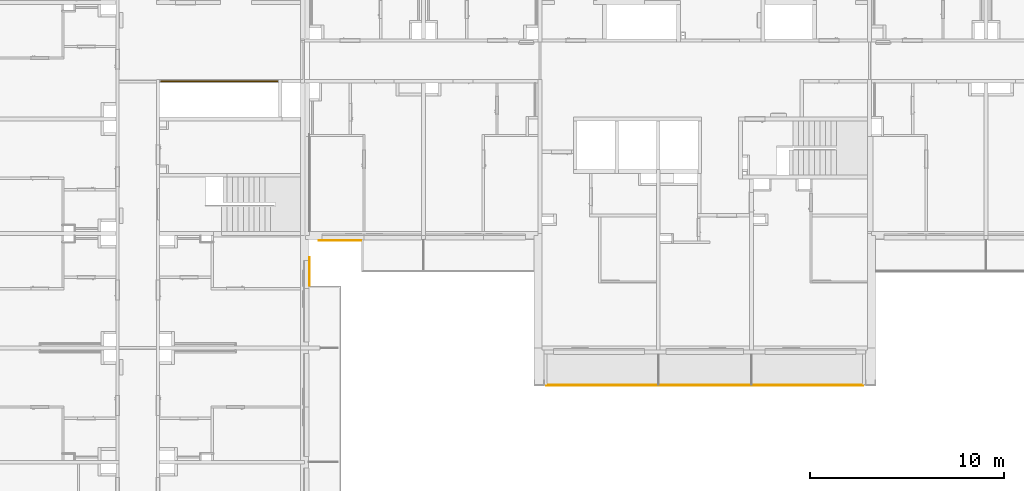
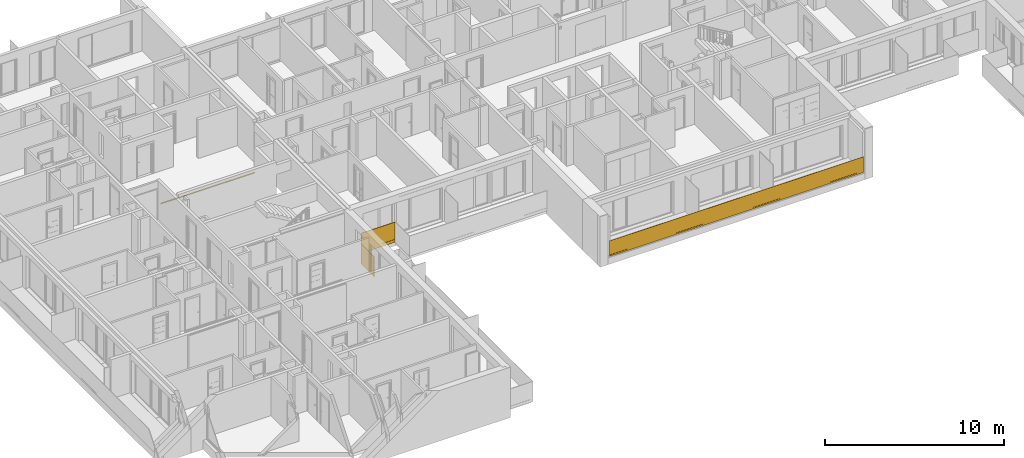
# One storey, part 5 of 67: 4 railings.
"""IFC2X3 building model written with IfcOpenShell, lengths in millimetres."""

import ifcopenshell
import ifcopenshell.guid

model = None  # the IFC model being written
_history = None  # IfcOwnerHistory: only IFC2X3 demands one
_inside = {}  # id of a spatial element -> (the spatial element, [elements in it])
_under = {}  # id of a project, library or spatial element -> (it, [spatial elements below it])
_declared = {}  # id of a project -> (the project, [libraries it declares])
_typed = {}  # id of a type object -> (the type object, [elements of that type])
_made_of = {}  # id of a material, layer set ... -> (it, [elements and type objects made of it])


def new_model(schema):
    """Start an empty IFC model of exactly this schema.

    Asked for "IFC4X3", IfcOpenShell would pick the latest addendum, in which some entities
    have other attributes; the version numbers below select the first issue.
    IFC2X3 requires an IfcOwnerHistory on every rooted entity: one is made here for all.
    """
    global model, _history
    if schema == "IFC4X3":
        model = ifcopenshell.file(schema_version=(4, 3, 0, 0))
    else:
        model = ifcopenshell.file(schema=schema)
    _inside.clear()
    _under.clear()
    _declared.clear()
    _typed.clear()
    _made_of.clear()
    _history = None
    if model.schema == "IFC2X3":
        org = make("IfcOrganization", Name="unknown")
        user = make(
            "IfcPersonAndOrganization",
            ThePerson=make("IfcPerson", FamilyName="unknown"),
            TheOrganization=org,
        )
        app = make(
            "IfcApplication",
            ApplicationDeveloper=org,
            Version="unknown",
            ApplicationFullName="unknown",
            ApplicationIdentifier="unknown",
        )
        _history = make(
            "IfcOwnerHistory",
            OwningUser=user,
            OwningApplication=app,
            ChangeAction="ADDED",
            CreationDate=0,
        )
    return model


def make(cls, **values):
    """One entity of the class cls with the attributes given. An attribute that is None is left unset."""
    return model.create_entity(
        cls, **{name: value for name, value in values.items() if value is not None}
    )


def entity(cls, *values):
    """Any entity or typed value of the class cls, its attributes in the order of the schema. None: left unset."""
    e = model.create_entity(cls)
    for i, value in enumerate(values):
        if value is not None:
            e[i] = value
    return e


def rooted(cls, **values):
    """An entity with a GlobalId (a new one), such as an element, a storey or a relation."""
    return make(cls, GlobalId=ifcopenshell.guid.new(), OwnerHistory=_history, **values)


def si_unit(unit_type, name, prefix=None):
    """IfcSIUnit, for example si_unit("LENGTHUNIT", "METRE", prefix="MILLI")."""
    return make("IfcSIUnit", UnitType=unit_type, Prefix=prefix, Name=name)


def converted_unit(unit_type, name, factor, base, dimensions=None, offset=None):
    """IfcConversionBasedUnit, such as the inch: factor (a typed value) times the base unit."""
    return make(
        "IfcConversionBasedUnit"
        if offset is None
        else "IfcConversionBasedUnitWithOffset",
        ConversionOffset=offset,
        Dimensions=None
        if dimensions is None
        else entity("IfcDimensionalExponents", *dimensions),
        UnitType=unit_type,
        Name=name,
        ConversionFactor=make(
            "IfcMeasureWithUnit", ValueComponent=factor, UnitComponent=base
        ),
    )


def derived_unit(unit_type, elements):
    """IfcDerivedUnit: a product of units, each with its exponent."""
    return make(
        "IfcDerivedUnit",
        Elements=[
            make("IfcDerivedUnitElement", Unit=unit, Exponent=power)
            for unit, power in elements
        ],
        UnitType=unit_type,
    )


def money_unit(currency):
    """IfcMonetaryUnit."""
    return make("IfcMonetaryUnit", Currency=currency)


def assignment(units):
    """IfcUnitAssignment: the units of a project."""
    return None if units is None else make("IfcUnitAssignment", Units=units)


def point(xyz):
    """IfcCartesianPoint."""
    return None if xyz is None else make("IfcCartesianPoint", Coordinates=xyz)


def direction(xyz):
    """IfcDirection."""
    return None if xyz is None else make("IfcDirection", DirectionRatios=xyz)


def frame(location, z_axis=None, x_axis=None):
    """IfcAxis2Placement3D, a coordinate frame: its origin and axes. An axis left out is left unset."""
    return make(
        "IfcAxis2Placement3D",
        Location=point(location),
        Axis=direction(z_axis),
        RefDirection=direction(x_axis),
    )


def origin_with_axes():
    """The frame at (0, 0, 0) with the z axis (0, 0, 1) and the x axis (1, 0, 0) written out."""
    return frame((0.0, 0.0, 0.0), z_axis=(0.0, 0.0, 1.0), x_axis=(1.0, 0.0, 0.0))


def place(relative_to, where):
    """IfcLocalPlacement: puts the frame where relative to a parent placement (None: the world)."""
    return make(
        "IfcLocalPlacement", PlacementRelTo=relative_to, RelativePlacement=where
    )


def context(
    kind, dimensions, precision=None, world=None, true_north=None, identifier=None
):
    """IfcGeometricRepresentationContext, for example the 3D "Model" context."""
    return make(
        "IfcGeometricRepresentationContext",
        ContextIdentifier=identifier,
        ContextType=kind,
        CoordinateSpaceDimension=dimensions,
        Precision=precision,
        WorldCoordinateSystem=world,
        TrueNorth=true_north,
    )


def subcontext(parent, identifier, kind, view, scale=None):
    """IfcGeometricRepresentationSubContext, for example "Body" below "Model"."""
    return make(
        "IfcGeometricRepresentationSubContext",
        ContextIdentifier=identifier,
        ContextType=kind,
        ParentContext=parent,
        TargetScale=scale,
        TargetView=view,
    )


def project(units=None, contexts=None):
    """IfcProject with its units and contexts."""
    return rooted(
        "IfcProject",
        Name="project",
        RepresentationContexts=contexts,
        UnitsInContext=assignment(units),
    )


def spatial(cls, under=None, at=None, **own):
    """A site, building, storey or space (cls), placed at a placement, below another one or the project."""
    s = rooted(cls, ObjectPlacement=at, **own)
    if under is not None:
        _under.setdefault(under.id(), (under, []))[1].append(s)
    return s


def faces_of(points, faces, orient=None, outer=None):
    """IfcFace entities. A face is a list of loops; a loop is a list of indices into points, from 0.

    orient and outer hold one flag for each loop. By default every Orientation is true, the
    first loop of a face is its IfcFaceOuterBound and the others are IfcFaceBound.
    """
    made = []
    for i, loops in enumerate(faces):
        bounds = []
        for j, loop in enumerate(loops):
            is_outer = j == 0 if outer is None else outer[i][j]
            bounds.append(
                make(
                    "IfcFaceOuterBound" if is_outer else "IfcFaceBound",
                    Bound=make("IfcPolyLoop", Polygon=[points[k] for k in loop]),
                    Orientation=True if orient is None else orient[i][j],
                )
            )
        made.append(make("IfcFace", Bounds=bounds))
    return made


def faceted_brep(points, faces, orient=None, outer=None, voids=None):
    """IfcFacetedBrep: a solid bounded by flat faces; with voids (closed shells), ...WithVoids."""
    shared = [point(p) for p in points]
    hull = make("IfcClosedShell", CfsFaces=faces_of(shared, faces, orient, outer))
    if voids is None:
        return make("IfcFacetedBrep", Outer=hull)
    return make(
        "IfcFacetedBrepWithVoids",
        Outer=hull,
        Voids=[
            make(cls, CfsFaces=faces_of(shared, fs, o, b)) for cls, fs, o, b in voids
        ],
    )


def shape(context_of_items, identifier, shape_type, items):
    """IfcShapeRepresentation: the items that make up one representation, for example the "Body"."""
    return make(
        "IfcShapeRepresentation",
        ContextOfItems=context_of_items,
        RepresentationIdentifier=identifier,
        RepresentationType=shape_type,
        Items=items,
    )


def material(Name=None, Category=None):
    """IfcMaterial."""
    return make("IfcMaterial", Name=Name, Category=Category)


def material_list(materials):
    """IfcMaterialList."""
    return make("IfcMaterialList", Materials=materials)


def made_of(thing, what):
    """Note that an element or type object is made of a material, layer set ...; save() writes the relation."""
    if what is not None:
        _made_of.setdefault(what.id(), (what, []))[1].append(thing)
    return thing


def type_object(cls, material=None, **own):
    """A type object (cls), such as IfcWallType, which elements share."""
    return made_of(rooted(cls, **own), material)


def element(
    cls,
    number,
    at=None,
    inside=None,
    cuts=None,
    type_object=None,
    material=None,
    context=None,
    identifier="Body",
    shape_type=None,
    held_by="IfcProductDefinitionShape",
    body=None,
    shapes=None,
    **own,
):
    """One element of the class cls, such as IfcWall. Its Tag is "e" and its number.

    at: its placement. inside: the storey or other place that contains it. cuts: it is an
    opening in that element (IfcRelVoidsElement). A single representation is given by context,
    identifier, shape_type and body (its items); several are given by shapes. held_by: the class
    of the entity that holds the representations. save() writes the other relations.
    """
    e = rooted(cls, Tag="e%d" % number, ObjectPlacement=at, **own)
    if body is not None:
        shapes = [shape(context, identifier, shape_type, body)]
    if shapes is not None:
        e.Representation = make(held_by, Representations=shapes)
    if inside is not None:
        _inside.setdefault(inside.id(), (inside, []))[1].append(e)
    if cuts is not None:
        rooted(
            "IfcRelVoidsElement", RelatingBuildingElement=cuts, RelatedOpeningElement=e
        )
    if type_object is not None:
        _typed.setdefault(type_object.id(), (type_object, []))[1].append(e)
    return made_of(e, material)


def aggregate(whole, parts):
    """IfcRelAggregates: a whole, such as a stair, and the parts it consists of."""
    return rooted("IfcRelAggregates", RelatingObject=whole, RelatedObjects=parts)


def save(model, path):
    """Write the relations noted so far, then the file.

    IfcRelAggregates (storeys below a building ...), IfcRelContainedInSpatialStructure (elements
    in a storey), IfcRelDefinesByType, IfcRelAssociatesMaterial and IfcRelDeclares: one each for
    every whole, place, type object, material and project.
    """
    for whole, parts in _under.values():
        aggregate(whole, parts)
    for where, things in _inside.values():
        rooted(
            "IfcRelContainedInSpatialStructure",
            RelatedElements=things,
            RelatingStructure=where,
        )
    for kind, things in _typed.values():
        rooted("IfcRelDefinesByType", RelatedObjects=things, RelatingType=kind)
    for what, things in _made_of.values():
        rooted("IfcRelAssociatesMaterial", RelatedObjects=things, RelatingMaterial=what)
    for by, libraries in _declared.values():
        rooted("IfcRelDeclares", RelatingContext=by, RelatedDefinitions=libraries)
    model.write(path)


model = new_model("IFC2X3")

# Units and contexts
model_context = context("Model", 3, precision=0.01, world=origin_with_axes(), true_north=direction((0.34421633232, 0.938890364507)))
body_context = subcontext(model_context, "Body", "Model", "MODEL_VIEW")
ifc_project = project(units=[si_unit("LENGTHUNIT", "METRE", prefix="MILLI"), si_unit("AREAUNIT", "SQUARE_METRE"), si_unit("VOLUMEUNIT", "CUBIC_METRE"), converted_unit("PLANEANGLEUNIT", "DEGREE", entity("IfcPlaneAngleMeasure", 0.0174532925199), si_unit("PLANEANGLEUNIT", "RADIAN"), dimensions=[0, 0, 0, 0, 0, 0, 0]), si_unit("SOLIDANGLEUNIT", "STERADIAN"), money_unit("USD"), converted_unit("TIMEUNIT", "Year", entity("IfcTimeMeasure", 31556926.0), si_unit("TIMEUNIT", "SECOND"), dimensions=[0, 0, 1, 0, 0, 0, 0]), si_unit("MASSUNIT", "GRAM", prefix="KILO"), si_unit("THERMODYNAMICTEMPERATUREUNIT", "DEGREE_CELSIUS"), si_unit("LUMINOUSINTENSITYUNIT", "LUMEN"), si_unit("ENERGYUNIT", "JOULE", prefix="MEGA"), derived_unit("THERMALCONDUCTANCEUNIT", [(si_unit("POWERUNIT", "WATT"), 1), (si_unit("LENGTHUNIT", "METRE"), -1), (si_unit("THERMODYNAMICTEMPERATUREUNIT", "KELVIN"), -1)]), derived_unit("SPECIFICHEATCAPACITYUNIT", [(si_unit("ENERGYUNIT", "JOULE"), 1), (si_unit("MASSUNIT", "GRAM", prefix="KILO"), -1), (si_unit("THERMODYNAMICTEMPERATUREUNIT", "KELVIN"), -1)]), derived_unit("MASSDENSITYUNIT", [(si_unit("MASSUNIT", "GRAM", prefix="KILO"), 1), (si_unit("VOLUMEUNIT", "CUBIC_METRE"), -1)])], contexts=[model_context])

# Site, building, storey
site_placement = place(None, origin_with_axes())
site = spatial("IfcSite", under=ifc_project, at=site_placement, Name="USTRONIE MORSKIE", CompositionType="ELEMENT")
building_placement = place(site_placement, origin_with_axes())
building = spatial("IfcBuilding", under=site, at=building_placement, Name="Budynek", CompositionType="ELEMENT")
storey_placement = place(building_placement, frame((0.0, 0.0, 4000.0), z_axis=(0.0, 0.0, 1.0), x_axis=(1.0, 0.0, 0.0)))
storey = spatial("IfcBuildingStorey", under=building, at=storey_placement, Name="PIĘTRO 1", CompositionType="ELEMENT", Elevation=4000.0)

# Railings
ifc_material_1 = material(Name="Szkło struktualne")
ifc_material_2 = material(Name="Profile aluminiowe")
ifc_material_list_1 = material_list([ifc_material_1, ifc_material_2])
railing_type = type_object("IfcRailingType", Name="Typ balustrady", PredefinedType="NOTDEFINED")
railing_1_placement = place(storey_placement, frame((396597.920919, 720851.199036, 30.0), z_axis=(0.0, 0.0, 1.0), x_axis=(1.0, 0.0, 0.0)))
element("IfcRailing", 1, at=railing_1_placement, inside=storey, type_object=railing_type, material=ifc_material_list_1, Name="BL1", PredefinedType="NOTDEFINED", context=body_context, shape_type="Brep", body=[
    faceted_brep([(-16960.0, -1790.0, -100.0), (-600.0, -1790.0, -100.0), (-600.0, -1790.0, 950.0), (-16960.0, -1790.0, 950.0), (-600.0, -1770.0, -100.0), (-16960.0, -1770.0, -100.0), (-600.0, -1770.0, 950.0), (-16960.0, -1770.0, 950.0)], [[[0, 1, 2, 3]], [[4, 1, 0, 5]], [[6, 2, 1, 4]], [[3, 2, 6, 7]], [[0, 3, 7, 5]], [[6, 4, 5, 7]]]),
    faceted_brep([(-600.0, -1765.0, -105.0), (-16960.0, -1765.0, -105.0), (-16960.0, -1765.0, -5.0), (-600.0, -1765.0, -5.0), (-600.0, -1795.0, -105.0), (-16960.0, -1795.0, -105.0), (-16960.0, -1795.0, -5.0), (-16960.0, -1790.0, -5.0), (-16960.0, -1790.0, -100.0), (-16960.0, -1770.0, -100.0), (-16960.0, -1770.0, -5.0), (-600.0, -1770.0, -5.0), (-600.0, -1790.0, -100.0), (-600.0, -1790.0, -5.0), (-600.0, -1795.0, -5.0), (-600.0, -1770.0, -100.0)], [[[0, 1, 2, 3]], [[4, 5, 1, 0]], [[5, 6, 7, 8, 9, 10, 2, 1]], [[3, 2, 10, 11]], [[12, 13, 14, 4, 0, 3, 11, 15]], [[5, 4, 14, 6]], [[14, 13, 7, 6]], [[13, 12, 8, 7]], [[12, 15, 9, 8]], [[9, 15, 11, 10]]]),
])
railing_2_placement = place(storey_placement, frame((367377.958165, 724111.198359, 0.0), z_axis=(0.0, 0.0, 1.0), x_axis=(-1.0, 0.0, 0.0)))
element("IfcRailing", 2, at=railing_2_placement, inside=storey, type_object=railing_type, material=ifc_material_list_1, Name="BL1", PredefinedType="NOTDEFINED", context=body_context, shape_type="Brep", body=[
    faceted_brep([(-40.0, -1550.0, -300.0), (-40.0, -80.0, -300.0), (-40.0, -80.0, 1070.0), (-40.0, -1550.0, 1070.0), (-60.0, -80.0, -300.0), (-60.0, -1550.0, -300.0), (-60.0, -80.0, 1070.0), (-60.0, -1550.0, 1070.0)], [[[0, 1, 2, 3]], [[4, 1, 0, 5]], [[6, 2, 1, 4]], [[3, 2, 6, 7]], [[0, 3, 7, 5]], [[6, 4, 5, 7]]]),
    faceted_brep([(-65.0, -1550.0, -105.0), (-65.0, -80.0, -105.0), (-65.0, -80.0, -305.0), (-65.0, -1550.0, -305.0), (-60.0, -1550.0, -105.0), (-60.0, -80.0, -105.0), (-60.0, -80.0, -300.0), (-40.0, -80.0, -300.0), (-40.0, -80.0, -105.0), (-35.0, -80.0, -105.0), (-35.0, -80.0, -305.0), (-35.0, -1550.0, -305.0), (-35.0, -1550.0, -105.0), (-40.0, -1550.0, -105.0), (-40.0, -1550.0, -300.0), (-60.0, -1550.0, -300.0)], [[[0, 1, 2, 3]], [[1, 0, 4, 5]], [[6, 7, 8, 9, 10, 2, 1, 5]], [[10, 11, 3, 2]], [[11, 12, 13, 14, 15, 4, 0, 3]], [[15, 6, 5, 4]], [[7, 6, 15, 14]], [[8, 7, 14, 13]], [[9, 8, 13, 12]], [[11, 10, 9, 12]]]),
])
ifc_material_3 = material(Name="Stal nierdzewna")
ifc_material_list_2 = material_list([ifc_material_3, ifc_material_3, ifc_material_3])
railing_3_placement = place(storey_placement, frame((365767.926125, 734741.198985, 0.0), z_axis=(0.0, 0.0, 1.0), x_axis=(-1.0, 0.0, 0.0)))
element("IfcRailing", 3, at=railing_3_placement, inside=storey, type_object=railing_type, material=ifc_material_list_2, Name="BL1", PredefinedType="NOTDEFINED", context=body_context, shape_type="Brep", body=[
    faceted_brep([(20.0, -25.0, 975.0), (20.0, -24.6201938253, 979.341204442), (-30.0, -24.6201938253, 979.341204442), (-30.0, -25.0, 975.0), (20.0, -24.6201938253, 970.658795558), (20.0, -23.4923155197, 966.449496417), (20.0, -21.6506350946, 962.5), (20.0, -19.151111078, 958.930309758), (20.0, -16.0696902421, 955.848888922), (20.0, -12.5, 953.349364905), (20.0, -8.55050358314, 951.50768448), (20.0, -4.34120444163, 950.379806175), (20.0, 0.0, 950.0), (20.0, 4.34120444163, 950.379806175), (20.0, 8.55050358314, 951.50768448), (20.0, 12.5, 953.349364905), (20.0, 16.0696902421, 955.848888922), (20.0, 19.151111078, 958.930309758), (20.0, 21.6506350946, 962.5), (20.0, 23.4923155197, 966.449496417), (20.0, 24.6201938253, 970.658795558), (20.0, 25.0, 975.0), (20.0, 24.6201938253, 979.341204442), (20.0, 23.4923155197, 983.550503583), (20.0, 21.6506350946, 987.5), (20.0, 19.151111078, 991.069690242), (20.0, 16.0696902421, 994.151111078), (20.0, 12.5, 996.650635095), (20.0, 8.55050358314, 998.49231552), (20.0, 4.34120444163, 999.620193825), (20.0, 0.0, 1000.0), (20.0, -4.34120444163, 999.620193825), (20.0, -8.55050358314, 998.49231552), (20.0, -12.5, 996.650635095), (20.0, -16.0696902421, 994.151111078), (20.0, -19.151111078, 991.069690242), (20.0, -21.6506350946, 987.5), (20.0, -23.4923155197, 983.550503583), (20.0, -15.0, 975.0), (20.0, -14.7721162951, 977.604722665), (20.0, -14.0953893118, 980.13030215), (20.0, -12.9903810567, 982.5), (20.0, -11.4906666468, 984.641814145), (20.0, -9.64181414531, 986.490666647), (20.0, -7.50000000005, 987.990381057), (20.0, -5.13030214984, 989.095389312), (20.0, -2.60472266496, 989.772116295), (20.0, 0.0, 990.0), (20.0, 2.60472266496, 989.772116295), (20.0, 5.13030214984, 989.095389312), (20.0, 7.50000000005, 987.990381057), (20.0, 9.64181414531, 986.490666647), (20.0, 11.4906666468, 984.641814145), (20.0, 12.9903810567, 982.5), (20.0, 14.0953893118, 980.13030215), (20.0, 14.7721162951, 977.604722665), (20.0, 15.0, 975.0), (20.0, 14.7721162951, 972.395277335), (20.0, 14.0953893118, 969.86969785), (20.0, 12.9903810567, 967.5), (20.0, 11.4906666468, 965.358185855), (20.0, 9.64181414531, 963.509333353), (20.0, 7.50000000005, 962.009618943), (20.0, 5.13030214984, 960.904610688), (20.0, 2.60472266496, 960.227883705), (20.0, 0.0, 960.0), (20.0, -2.60472266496, 960.227883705), (20.0, -5.13030214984, 960.904610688), (20.0, -7.50000000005, 962.009618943), (20.0, -9.64181414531, 963.509333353), (20.0, -11.4906666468, 965.358185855), (20.0, -12.9903810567, 967.5), (20.0, -14.0953893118, 969.86969785), (20.0, -14.7721162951, 972.395277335), (-30.0, -23.4923155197, 983.550503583), (-30.0, -21.6506350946, 987.5), (-30.0, -19.151111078, 991.069690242), (-30.0, -16.0696902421, 994.151111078), (-30.0, -12.5, 996.650635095), (-30.0, -8.55050358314, 998.49231552), (-30.0, -4.34120444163, 999.620193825), (-30.0, 0.0, 1000.0), (-30.0, 4.34120444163, 999.620193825), (-30.0, 8.55050358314, 998.49231552), (-30.0, 12.5, 996.650635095), (-30.0, 16.0696902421, 994.151111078), (-30.0, 19.151111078, 991.069690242), (-30.0, 21.6506350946, 987.5), (-30.0, 23.4923155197, 983.550503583), (-30.0, 24.6201938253, 979.341204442), (-30.0, 25.0, 975.0), (-30.0, 24.6201938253, 970.658795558), (-30.0, 23.4923155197, 966.449496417), (-30.0, 21.6506350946, 962.5), (-30.0, 19.151111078, 958.930309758), (-30.0, 16.0696902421, 955.848888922), (-30.0, 12.5, 953.349364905), (-30.0, 8.55050358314, 951.50768448), (-30.0, 4.34120444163, 950.379806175), (-30.0, 0.0, 950.0), (-30.0, -4.34120444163, 950.379806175), (-30.0, -8.55050358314, 951.50768448), (-30.0, -12.5, 953.349364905), (-30.0, -16.0696902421, 955.848888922), (-30.0, -19.151111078, 958.930309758), (-30.0, -21.6506350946, 962.5), (-30.0, -23.4923155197, 966.449496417), (-30.0, -24.6201938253, 970.658795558), (-30.0, -15.0, 975.0), (-30.0, -14.7721162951, 972.395277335), (-30.0, -14.0953893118, 969.86969785), (-30.0, -12.9903810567, 967.5), (-30.0, -11.4906666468, 965.358185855), (-30.0, -9.64181414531, 963.509333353), (-30.0, -7.50000000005, 962.009618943), (-30.0, -5.13030214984, 960.904610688), (-30.0, -2.60472266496, 960.227883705), (-30.0, 0.0, 960.0), (-30.0, 2.60472266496, 960.227883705), (-30.0, 5.13030214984, 960.904610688), (-30.0, 7.50000000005, 962.009618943), (-30.0, 9.64181414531, 963.509333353), (-30.0, 11.4906666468, 965.358185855), (-30.0, 12.9903810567, 967.5), (-30.0, 14.0953893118, 969.86969785), (-30.0, 14.7721162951, 972.395277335), (-30.0, 15.0, 975.0), (-30.0, 14.7721162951, 977.604722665), (-30.0, 14.0953893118, 980.13030215), (-30.0, 12.9903810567, 982.5), (-30.0, 11.4906666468, 984.641814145), (-30.0, 9.64181414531, 986.490666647), (-30.0, 7.50000000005, 987.990381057), (-30.0, 5.13030214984, 989.095389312), (-30.0, 2.60472266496, 989.772116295), (-30.0, 0.0, 990.0), (-30.0, -2.60472266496, 989.772116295), (-30.0, -5.13030214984, 989.095389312), (-30.0, -7.50000000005, 987.990381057), (-30.0, -9.64181414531, 986.490666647), (-30.0, -11.4906666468, 984.641814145), (-30.0, -12.9903810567, 982.5), (-30.0, -14.0953893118, 980.13030215), (-30.0, -14.7721162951, 977.604722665)], [[[0, 1, 2, 3]], [[0, 4, 5, 6, 7, 8, 9, 10, 11, 12, 13, 14, 15, 16, 17, 18, 19, 20, 21, 22, 23, 24, 25, 26, 27, 28, 29, 30, 31, 32, 33, 34, 35, 36, 37, 1], [38, 39, 40, 41, 42, 43, 44, 45, 46, 47, 48, 49, 50, 51, 52, 53, 54, 55, 56, 57, 58, 59, 60, 61, 62, 63, 64, 65, 66, 67, 68, 69, 70, 71, 72, 73]], [[1, 37, 74, 2]], [[3, 2, 74, 75, 76, 77, 78, 79, 80, 81, 82, 83, 84, 85, 86, 87, 88, 89, 90, 91, 92, 93, 94, 95, 96, 97, 98, 99, 100, 101, 102, 103, 104, 105, 106, 107], [108, 109, 110, 111, 112, 113, 114, 115, 116, 117, 118, 119, 120, 121, 122, 123, 124, 125, 126, 127, 128, 129, 130, 131, 132, 133, 134, 135, 136, 137, 138, 139, 140, 141, 142, 143]], [[4, 0, 3, 107]], [[5, 4, 107, 106]], [[6, 5, 106, 105]], [[7, 6, 105, 104]], [[8, 7, 104, 103]], [[9, 8, 103, 102]], [[10, 9, 102, 101]], [[11, 10, 101, 100]], [[12, 11, 100, 99]], [[13, 12, 99, 98]], [[14, 13, 98, 97]], [[15, 14, 97, 96]], [[16, 15, 96, 95]], [[17, 16, 95, 94]], [[18, 17, 94, 93]], [[19, 18, 93, 92]], [[20, 19, 92, 91]], [[21, 20, 91, 90]], [[22, 21, 90, 89]], [[23, 22, 89, 88]], [[24, 23, 88, 87]], [[25, 24, 87, 86]], [[26, 25, 86, 85]], [[27, 26, 85, 84]], [[28, 27, 84, 83]], [[29, 28, 83, 82]], [[30, 29, 82, 81]], [[31, 30, 81, 80]], [[32, 31, 80, 79]], [[33, 32, 79, 78]], [[34, 33, 78, 77]], [[35, 34, 77, 76]], [[36, 35, 76, 75]], [[37, 36, 75, 74]], [[39, 38, 108, 143]], [[40, 39, 143, 142]], [[41, 40, 142, 141]], [[42, 41, 141, 140]], [[43, 42, 140, 139]], [[44, 43, 139, 138]], [[45, 44, 138, 137]], [[46, 45, 137, 136]], [[47, 46, 136, 135]], [[48, 47, 135, 134]], [[49, 48, 134, 133]], [[50, 49, 133, 132]], [[51, 50, 132, 131]], [[52, 51, 131, 130]], [[53, 52, 130, 129]], [[54, 53, 129, 128]], [[55, 54, 128, 127]], [[56, 55, 127, 126]], [[57, 56, 126, 125]], [[58, 57, 125, 124]], [[59, 58, 124, 123]], [[60, 59, 123, 122]], [[61, 60, 122, 121]], [[62, 61, 121, 120]], [[63, 62, 120, 119]], [[64, 63, 119, 118]], [[65, 64, 118, 117]], [[66, 65, 117, 116]], [[67, 66, 116, 115]], [[68, 67, 115, 114]], [[69, 68, 114, 113]], [[70, 69, 113, 112]], [[71, 70, 112, 111]], [[72, 71, 111, 110]], [[73, 72, 110, 109]], [[38, 73, 109, 108]]]),
    faceted_brep([(5970.00520575, 25.0, 975.0), (5970.00520575, 24.6201938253, 979.341204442), (6020.00520575, 24.6201938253, 979.341204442), (6020.00520575, 25.0, 975.0), (5970.00520575, 24.6201938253, 970.658795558), (5970.00520575, 23.4923155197, 966.449496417), (5970.00520575, 21.6506350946, 962.5), (5970.00520575, 19.151111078, 958.930309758), (5970.00520575, 16.0696902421, 955.848888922), (5970.00520575, 12.5, 953.349364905), (5970.00520575, 8.55050358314, 951.50768448), (5970.00520575, 4.34120444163, 950.379806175), (5970.00520575, 0.0, 950.0), (5970.00520575, -4.34120444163, 950.379806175), (5970.00520575, -8.55050358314, 951.50768448), (5970.00520575, -12.5, 953.349364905), (5970.00520575, -16.0696902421, 955.848888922), (5970.00520575, -19.151111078, 958.930309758), (5970.00520575, -21.6506350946, 962.5), (5970.00520575, -23.4923155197, 966.449496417), (5970.00520575, -24.6201938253, 970.658795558), (5970.00520575, -25.0, 975.0), (5970.00520575, -24.6201938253, 979.341204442), (5970.00520575, -23.4923155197, 983.550503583), (5970.00520575, -21.6506350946, 987.5), (5970.00520575, -19.151111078, 991.069690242), (5970.00520575, -16.0696902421, 994.151111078), (5970.00520575, -12.5, 996.650635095), (5970.00520575, -8.55050358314, 998.49231552), (5970.00520575, -4.34120444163, 999.620193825), (5970.00520575, 0.0, 1000.0), (5970.00520575, 4.34120444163, 999.620193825), (5970.00520575, 8.55050358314, 998.49231552), (5970.00520575, 12.5, 996.650635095), (5970.00520575, 16.0696902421, 994.151111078), (5970.00520575, 19.151111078, 991.069690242), (5970.00520575, 21.6506350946, 987.5), (5970.00520575, 23.4923155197, 983.550503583), (5970.00520575, 15.0, 975.0), (5970.00520575, 14.7721162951, 977.604722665), (5970.00520575, 14.0953893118, 980.13030215), (5970.00520575, 12.9903810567, 982.5), (5970.00520575, 11.4906666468, 984.641814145), (5970.00520575, 9.64181414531, 986.490666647), (5970.00520575, 7.50000000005, 987.990381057), (5970.00520575, 5.13030214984, 989.095389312), (5970.00520575, 2.60472266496, 989.772116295), (5970.00520575, 0.0, 990.0), (5970.00520575, -2.60472266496, 989.772116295), (5970.00520575, -5.13030214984, 989.095389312), (5970.00520575, -7.50000000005, 987.990381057), (5970.00520575, -9.64181414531, 986.490666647), (5970.00520575, -11.4906666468, 984.641814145), (5970.00520575, -12.9903810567, 982.5), (5970.00520575, -14.0953893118, 980.13030215), (5970.00520575, -14.7721162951, 977.604722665), (5970.00520575, -15.0, 975.0), (5970.00520575, -14.7721162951, 972.395277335), (5970.00520575, -14.0953893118, 969.86969785), (5970.00520575, -12.9903810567, 967.5), (5970.00520575, -11.4906666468, 965.358185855), (5970.00520575, -9.64181414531, 963.509333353), (5970.00520575, -7.50000000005, 962.009618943), (5970.00520575, -5.13030214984, 960.904610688), (5970.00520575, -2.60472266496, 960.227883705), (5970.00520575, 0.0, 960.0), (5970.00520575, 2.60472266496, 960.227883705), (5970.00520575, 5.13030214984, 960.904610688), (5970.00520575, 7.50000000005, 962.009618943), (5970.00520575, 9.64181414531, 963.509333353), (5970.00520575, 11.4906666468, 965.358185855), (5970.00520575, 12.9903810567, 967.5), (5970.00520575, 14.0953893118, 969.86969785), (5970.00520575, 14.7721162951, 972.395277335), (6020.00520575, 23.4923155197, 983.550503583), (6020.00520575, 21.6506350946, 987.5), (6020.00520575, 19.151111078, 991.069690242), (6020.00520575, 16.0696902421, 994.151111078), (6020.00520575, 12.5, 996.650635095), (6020.00520575, 8.55050358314, 998.49231552), (6020.00520575, 4.34120444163, 999.620193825), (6020.00520575, 0.0, 1000.0), (6020.00520575, -4.34120444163, 999.620193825), (6020.00520575, -8.55050358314, 998.49231552), (6020.00520575, -12.5, 996.650635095), (6020.00520575, -16.0696902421, 994.151111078), (6020.00520575, -19.151111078, 991.069690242), (6020.00520575, -21.6506350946, 987.5), (6020.00520575, -23.4923155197, 983.550503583), (6020.00520575, -24.6201938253, 979.341204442), (6020.00520575, -25.0, 975.0), (6020.00520575, -24.6201938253, 970.658795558), (6020.00520575, -23.4923155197, 966.449496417), (6020.00520575, -21.6506350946, 962.5), (6020.00520575, -19.151111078, 958.930309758), (6020.00520575, -16.0696902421, 955.848888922), (6020.00520575, -12.5, 953.349364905), (6020.00520575, -8.55050358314, 951.50768448), (6020.00520575, -4.34120444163, 950.379806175), (6020.00520575, 0.0, 950.0), (6020.00520575, 4.34120444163, 950.379806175), (6020.00520575, 8.55050358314, 951.50768448), (6020.00520575, 12.5, 953.349364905), (6020.00520575, 16.0696902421, 955.848888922), (6020.00520575, 19.151111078, 958.930309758), (6020.00520575, 21.6506350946, 962.5), (6020.00520575, 23.4923155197, 966.449496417), (6020.00520575, 24.6201938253, 970.658795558), (6020.00520575, 15.0, 975.0), (6020.00520575, 14.7721162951, 972.395277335), (6020.00520575, 14.0953893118, 969.86969785), (6020.00520575, 12.9903810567, 967.5), (6020.00520575, 11.4906666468, 965.358185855), (6020.00520575, 9.64181414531, 963.509333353), (6020.00520575, 7.50000000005, 962.009618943), (6020.00520575, 5.13030214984, 960.904610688), (6020.00520575, 2.60472266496, 960.227883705), (6020.00520575, 0.0, 960.0), (6020.00520575, -2.60472266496, 960.227883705), (6020.00520575, -5.13030214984, 960.904610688), (6020.00520575, -7.50000000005, 962.009618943), (6020.00520575, -9.64181414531, 963.509333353), (6020.00520575, -11.4906666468, 965.358185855), (6020.00520575, -12.9903810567, 967.5), (6020.00520575, -14.0953893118, 969.86969785), (6020.00520575, -14.7721162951, 972.395277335), (6020.00520575, -15.0, 975.0), (6020.00520575, -14.7721162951, 977.604722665), (6020.00520575, -14.0953893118, 980.13030215), (6020.00520575, -12.9903810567, 982.5), (6020.00520575, -11.4906666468, 984.641814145), (6020.00520575, -9.64181414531, 986.490666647), (6020.00520575, -7.50000000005, 987.990381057), (6020.00520575, -5.13030214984, 989.095389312), (6020.00520575, -2.60472266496, 989.772116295), (6020.00520575, 0.0, 990.0), (6020.00520575, 2.60472266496, 989.772116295), (6020.00520575, 5.13030214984, 989.095389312), (6020.00520575, 7.50000000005, 987.990381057), (6020.00520575, 9.64181414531, 986.490666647), (6020.00520575, 11.4906666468, 984.641814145), (6020.00520575, 12.9903810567, 982.5), (6020.00520575, 14.0953893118, 980.13030215), (6020.00520575, 14.7721162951, 977.604722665)], [[[0, 1, 2, 3]], [[0, 4, 5, 6, 7, 8, 9, 10, 11, 12, 13, 14, 15, 16, 17, 18, 19, 20, 21, 22, 23, 24, 25, 26, 27, 28, 29, 30, 31, 32, 33, 34, 35, 36, 37, 1], [38, 39, 40, 41, 42, 43, 44, 45, 46, 47, 48, 49, 50, 51, 52, 53, 54, 55, 56, 57, 58, 59, 60, 61, 62, 63, 64, 65, 66, 67, 68, 69, 70, 71, 72, 73]], [[1, 37, 74, 2]], [[3, 2, 74, 75, 76, 77, 78, 79, 80, 81, 82, 83, 84, 85, 86, 87, 88, 89, 90, 91, 92, 93, 94, 95, 96, 97, 98, 99, 100, 101, 102, 103, 104, 105, 106, 107], [108, 109, 110, 111, 112, 113, 114, 115, 116, 117, 118, 119, 120, 121, 122, 123, 124, 125, 126, 127, 128, 129, 130, 131, 132, 133, 134, 135, 136, 137, 138, 139, 140, 141, 142, 143]], [[4, 0, 3, 107]], [[5, 4, 107, 106]], [[6, 5, 106, 105]], [[7, 6, 105, 104]], [[8, 7, 104, 103]], [[9, 8, 103, 102]], [[10, 9, 102, 101]], [[11, 10, 101, 100]], [[12, 11, 100, 99]], [[13, 12, 99, 98]], [[14, 13, 98, 97]], [[15, 14, 97, 96]], [[16, 15, 96, 95]], [[17, 16, 95, 94]], [[18, 17, 94, 93]], [[19, 18, 93, 92]], [[20, 19, 92, 91]], [[21, 20, 91, 90]], [[22, 21, 90, 89]], [[23, 22, 89, 88]], [[24, 23, 88, 87]], [[25, 24, 87, 86]], [[26, 25, 86, 85]], [[27, 26, 85, 84]], [[28, 27, 84, 83]], [[29, 28, 83, 82]], [[30, 29, 82, 81]], [[31, 30, 81, 80]], [[32, 31, 80, 79]], [[33, 32, 79, 78]], [[34, 33, 78, 77]], [[35, 34, 77, 76]], [[36, 35, 76, 75]], [[37, 36, 75, 74]], [[39, 38, 108, 143]], [[40, 39, 143, 142]], [[41, 40, 142, 141]], [[42, 41, 141, 140]], [[43, 42, 140, 139]], [[44, 43, 139, 138]], [[45, 44, 138, 137]], [[46, 45, 137, 136]], [[47, 46, 136, 135]], [[48, 47, 135, 134]], [[49, 48, 134, 133]], [[50, 49, 133, 132]], [[51, 50, 132, 131]], [[52, 51, 131, 130]], [[53, 52, 130, 129]], [[54, 53, 129, 128]], [[55, 54, 128, 127]], [[56, 55, 127, 126]], [[57, 56, 126, 125]], [[58, 57, 125, 124]], [[59, 58, 124, 123]], [[60, 59, 123, 122]], [[61, 60, 122, 121]], [[62, 61, 121, 120]], [[63, 62, 120, 119]], [[64, 63, 119, 118]], [[65, 64, 118, 117]], [[66, 65, 117, 116]], [[67, 66, 116, 115]], [[68, 67, 115, 114]], [[69, 68, 114, 113]], [[70, 69, 113, 112]], [[71, 70, 112, 111]], [[72, 71, 111, 110]], [[73, 72, 110, 109]], [[38, 73, 109, 108]]]),
    faceted_brep([(20.0, 25.0, 975.0), (20.0, 24.6201938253, 979.341204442), (5970.00520575, 24.6201938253, 979.341204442), (5970.00520575, 25.0, 975.0), (20.0, 24.6201938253, 970.658795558), (20.0, 23.4923155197, 966.449496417), (20.0, 21.6506350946, 962.5), (20.0, 19.151111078, 958.930309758), (20.0, 16.0696902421, 955.848888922), (20.0, 12.5, 953.349364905), (20.0, 8.55050358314, 951.50768448), (20.0, 4.34120444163, 950.379806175), (20.0, 0.0, 950.0), (20.0, -4.34120444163, 950.379806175), (20.0, -8.55050358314, 951.50768448), (20.0, -12.5, 953.349364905), (20.0, -16.0696902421, 955.848888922), (20.0, -19.151111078, 958.930309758), (20.0, -21.6506350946, 962.5), (20.0, -23.4923155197, 966.449496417), (20.0, -24.6201938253, 970.658795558), (20.0, -25.0, 975.0), (20.0, -24.6201938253, 979.341204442), (20.0, -23.4923155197, 983.550503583), (20.0, -21.6506350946, 987.5), (20.0, -19.151111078, 991.069690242), (20.0, -16.0696902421, 994.151111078), (20.0, -12.5, 996.650635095), (20.0, -8.55050358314, 998.49231552), (20.0, -4.34120444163, 999.620193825), (20.0, 0.0, 1000.0), (20.0, 4.34120444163, 999.620193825), (20.0, 8.55050358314, 998.49231552), (20.0, 12.5, 996.650635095), (20.0, 16.0696902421, 994.151111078), (20.0, 19.151111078, 991.069690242), (20.0, 21.6506350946, 987.5), (20.0, 23.4923155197, 983.550503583), (20.0, 15.0, 975.0), (20.0, 14.7721162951, 977.604722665), (20.0, 14.0953893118, 980.13030215), (20.0, 12.9903810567, 982.5), (20.0, 11.4906666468, 984.641814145), (20.0, 9.64181414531, 986.490666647), (20.0, 7.50000000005, 987.990381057), (20.0, 5.13030214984, 989.095389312), (20.0, 2.60472266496, 989.772116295), (20.0, 0.0, 990.0), (20.0, -2.60472266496, 989.772116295), (20.0, -5.13030214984, 989.095389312), (20.0, -7.50000000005, 987.990381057), (20.0, -9.64181414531, 986.490666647), (20.0, -11.4906666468, 984.641814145), (20.0, -12.9903810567, 982.5), (20.0, -14.0953893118, 980.13030215), (20.0, -14.7721162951, 977.604722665), (20.0, -15.0, 975.0), (20.0, -14.7721162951, 972.395277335), (20.0, -14.0953893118, 969.86969785), (20.0, -12.9903810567, 967.5), (20.0, -11.4906666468, 965.358185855), (20.0, -9.64181414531, 963.509333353), (20.0, -7.50000000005, 962.009618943), (20.0, -5.13030214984, 960.904610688), (20.0, -2.60472266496, 960.227883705), (20.0, 0.0, 960.0), (20.0, 2.60472266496, 960.227883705), (20.0, 5.13030214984, 960.904610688), (20.0, 7.50000000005, 962.009618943), (20.0, 9.64181414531, 963.509333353), (20.0, 11.4906666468, 965.358185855), (20.0, 12.9903810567, 967.5), (20.0, 14.0953893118, 969.86969785), (20.0, 14.7721162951, 972.395277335), (5970.00520575, 23.4923155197, 983.550503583), (5970.00520575, 21.6506350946, 987.5), (5970.00520575, 19.151111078, 991.069690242), (5970.00520575, 16.0696902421, 994.151111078), (5970.00520575, 12.5, 996.650635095), (5970.00520575, 8.55050358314, 998.49231552), (5970.00520575, 4.34120444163, 999.620193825), (5970.00520575, 0.0, 1000.0), (5970.00520575, -4.34120444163, 999.620193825), (5970.00520575, -8.55050358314, 998.49231552), (5970.00520575, -12.5, 996.650635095), (5970.00520575, -16.0696902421, 994.151111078), (5970.00520575, -19.151111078, 991.069690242), (5970.00520575, -21.6506350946, 987.5), (5970.00520575, -23.4923155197, 983.550503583), (5970.00520575, -24.6201938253, 979.341204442), (5970.00520575, -25.0, 975.0), (5970.00520575, -24.6201938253, 970.658795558), (5970.00520575, -23.4923155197, 966.449496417), (5970.00520575, -21.6506350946, 962.5), (5970.00520575, -19.151111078, 958.930309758), (5970.00520575, -16.0696902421, 955.848888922), (5970.00520575, -12.5, 953.349364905), (5970.00520575, -8.55050358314, 951.50768448), (5970.00520575, -4.34120444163, 950.379806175), (5970.00520575, 0.0, 950.0), (5970.00520575, 4.34120444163, 950.379806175), (5970.00520575, 8.55050358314, 951.50768448), (5970.00520575, 12.5, 953.349364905), (5970.00520575, 16.0696902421, 955.848888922), (5970.00520575, 19.151111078, 958.930309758), (5970.00520575, 21.6506350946, 962.5), (5970.00520575, 23.4923155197, 966.449496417), (5970.00520575, 24.6201938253, 970.658795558), (5970.00520575, 15.0, 975.0), (5970.00520575, 14.7721162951, 972.395277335), (5970.00520575, 14.0953893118, 969.86969785), (5970.00520575, 12.9903810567, 967.5), (5970.00520575, 11.4906666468, 965.358185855), (5970.00520575, 9.64181414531, 963.509333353), (5970.00520575, 7.50000000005, 962.009618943), (5970.00520575, 5.13030214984, 960.904610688), (5970.00520575, 2.60472266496, 960.227883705), (5970.00520575, 0.0, 960.0), (5970.00520575, -2.60472266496, 960.227883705), (5970.00520575, -5.13030214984, 960.904610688), (5970.00520575, -7.50000000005, 962.009618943), (5970.00520575, -9.64181414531, 963.509333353), (5970.00520575, -11.4906666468, 965.358185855), (5970.00520575, -12.9903810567, 967.5), (5970.00520575, -14.0953893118, 969.86969785), (5970.00520575, -14.7721162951, 972.395277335), (5970.00520575, -15.0, 975.0), (5970.00520575, -14.7721162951, 977.604722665), (5970.00520575, -14.0953893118, 980.13030215), (5970.00520575, -12.9903810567, 982.5), (5970.00520575, -11.4906666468, 984.641814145), (5970.00520575, -9.64181414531, 986.490666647), (5970.00520575, -7.50000000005, 987.990381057), (5970.00520575, -5.13030214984, 989.095389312), (5970.00520575, -2.60472266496, 989.772116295), (5970.00520575, 0.0, 990.0), (5970.00520575, 2.60472266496, 989.772116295), (5970.00520575, 5.13030214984, 989.095389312), (5970.00520575, 7.50000000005, 987.990381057), (5970.00520575, 9.64181414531, 986.490666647), (5970.00520575, 11.4906666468, 984.641814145), (5970.00520575, 12.9903810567, 982.5), (5970.00520575, 14.0953893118, 980.13030215), (5970.00520575, 14.7721162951, 977.604722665)], [[[0, 1, 2, 3]], [[0, 4, 5, 6, 7, 8, 9, 10, 11, 12, 13, 14, 15, 16, 17, 18, 19, 20, 21, 22, 23, 24, 25, 26, 27, 28, 29, 30, 31, 32, 33, 34, 35, 36, 37, 1], [38, 39, 40, 41, 42, 43, 44, 45, 46, 47, 48, 49, 50, 51, 52, 53, 54, 55, 56, 57, 58, 59, 60, 61, 62, 63, 64, 65, 66, 67, 68, 69, 70, 71, 72, 73]], [[1, 37, 74, 2]], [[3, 2, 74, 75, 76, 77, 78, 79, 80, 81, 82, 83, 84, 85, 86, 87, 88, 89, 90, 91, 92, 93, 94, 95, 96, 97, 98, 99, 100, 101, 102, 103, 104, 105, 106, 107], [108, 109, 110, 111, 112, 113, 114, 115, 116, 117, 118, 119, 120, 121, 122, 123, 124, 125, 126, 127, 128, 129, 130, 131, 132, 133, 134, 135, 136, 137, 138, 139, 140, 141, 142, 143]], [[4, 0, 3, 107]], [[5, 4, 107, 106]], [[6, 5, 106, 105]], [[7, 6, 105, 104]], [[8, 7, 104, 103]], [[9, 8, 103, 102]], [[10, 9, 102, 101]], [[11, 10, 101, 100]], [[12, 11, 100, 99]], [[13, 12, 99, 98]], [[14, 13, 98, 97]], [[15, 14, 97, 96]], [[16, 15, 96, 95]], [[17, 16, 95, 94]], [[18, 17, 94, 93]], [[19, 18, 93, 92]], [[20, 19, 92, 91]], [[21, 20, 91, 90]], [[22, 21, 90, 89]], [[23, 22, 89, 88]], [[24, 23, 88, 87]], [[25, 24, 87, 86]], [[26, 25, 86, 85]], [[27, 26, 85, 84]], [[28, 27, 84, 83]], [[29, 28, 83, 82]], [[30, 29, 82, 81]], [[31, 30, 81, 80]], [[32, 31, 80, 79]], [[33, 32, 79, 78]], [[34, 33, 78, 77]], [[35, 34, 77, 76]], [[36, 35, 76, 75]], [[37, 36, 75, 74]], [[39, 38, 108, 143]], [[40, 39, 143, 142]], [[41, 40, 142, 141]], [[42, 41, 141, 140]], [[43, 42, 140, 139]], [[44, 43, 139, 138]], [[45, 44, 138, 137]], [[46, 45, 137, 136]], [[47, 46, 136, 135]], [[48, 47, 135, 134]], [[49, 48, 134, 133]], [[50, 49, 133, 132]], [[51, 50, 132, 131]], [[52, 51, 131, 130]], [[53, 52, 130, 129]], [[54, 53, 129, 128]], [[55, 54, 128, 127]], [[56, 55, 127, 126]], [[57, 56, 126, 125]], [[58, 57, 125, 124]], [[59, 58, 124, 123]], [[60, 59, 123, 122]], [[61, 60, 122, 121]], [[62, 61, 121, 120]], [[63, 62, 120, 119]], [[64, 63, 119, 118]], [[65, 64, 118, 117]], [[66, 65, 117, 116]], [[67, 66, 116, 115]], [[68, 67, 115, 114]], [[69, 68, 114, 113]], [[70, 69, 113, 112]], [[71, 70, 112, 111]], [[72, 71, 111, 110]], [[73, 72, 110, 109]], [[38, 73, 109, 108]]]),
])
railing_4_placement = place(storey_placement, frame((370177.928052, 726591.199036, 0.0), z_axis=(0.0, 0.0, 1.0), x_axis=(-1.0, 0.0, 0.0)))
element("IfcRailing", 4, at=railing_4_placement, inside=storey, type_object=railing_type, material=ifc_material_list_1, Name="BL1", PredefinedType="NOTDEFINED", context=body_context, shape_type="Brep", body=[
    faceted_brep([(2259.98778246, 59.9999999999, -300.0), (80.0, 59.9999999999, -300.0), (80.0, 59.9999999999, 1070.0), (2259.98778246, 59.9999999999, 1070.0), (80.0, 40.0, -300.0), (2259.98778246, 40.0, -300.0), (80.0, 40.0, 1070.0), (2259.98778246, 40.0, 1070.0)], [[[0, 1, 2, 3]], [[4, 1, 0, 5]], [[6, 2, 1, 4]], [[3, 2, 6, 7]], [[0, 3, 7, 5]], [[6, 4, 5, 7]]]),
    faceted_brep([(80.0, 35.0, -305.0), (2259.98778246, 35.0, -305.0), (2259.98778246, 35.0, -105.0), (80.0, 35.0, -105.0), (80.0, 64.9999999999, -305.0), (2259.98778246, 64.9999999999, -305.0), (2259.98778246, 64.9999999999, -105.0), (2259.98778246, 59.9999999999, -105.0), (2259.98778246, 59.9999999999, -300.0), (2259.98778246, 40.0, -300.0), (2259.98778246, 40.0, -105.0), (80.0, 40.0, -105.0), (80.0, 59.9999999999, -300.0), (80.0, 59.9999999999, -105.0), (80.0, 64.9999999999, -105.0), (80.0, 40.0, -300.0)], [[[0, 1, 2, 3]], [[4, 5, 1, 0]], [[5, 6, 7, 8, 9, 10, 2, 1]], [[3, 2, 10, 11]], [[12, 13, 14, 4, 0, 3, 11, 15]], [[5, 4, 14, 6]], [[14, 13, 7, 6]], [[13, 12, 8, 7]], [[12, 15, 9, 8]], [[9, 15, 11, 10]]]),
])

save(model, "model.ifc")
